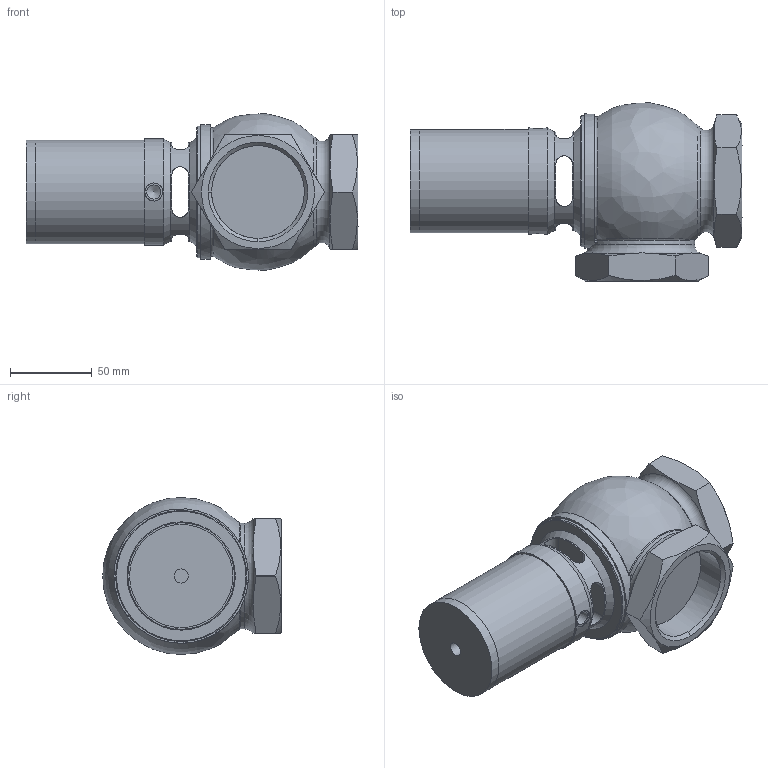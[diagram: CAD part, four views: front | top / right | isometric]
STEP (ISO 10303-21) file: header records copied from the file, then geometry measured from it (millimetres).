
FILE_DESCRIPTION(/* description */ (''),/* implementation_level */ '2;1');
FILE_NAME(/* name */ 'D:\OneDrive\Disegni Air Matic\Inventor\3D AerFlux base\AerFlux 2 L FV.stp',/* time_stamp */ '2020-06-08T15:01:44+02:00',/* author */ ('Alex'),/* organization */ (''),/* preprocessor_version */ 'ST-DEVELOPER v16.1',/* originating_system */ 'Autodesk Inventor 2016',/* authorisation */ '');
FILE_SCHEMA (('AUTOMOTIVE_DESIGN { 1 0 10303 214 3 1 1 }'));
Length unit declared in the file: millimetre
Products named in the file (5): TA 2 FV 90; 2CEFCORPSQBR09; Tubo AF 2 FV L; tp AF 2 L FV; AerFlux 2 L FV
Assembly tree (4 placements, depth 2):
  AerFlux 2 L FV
    TA 2 FV 90
    2CEFCORPSQBR09
    Tubo AF 2 FV L
    tp AF 2 L FV
Bounding box: 202.5 x 108.82 x 95.63 mm (x, y, z)
Volume: 748281.7 mm3; surface area: 103271.5 mm2
Topology: 4 solids, 4 shells, 87 faces, 216 edges, 137 vertices
Faces by surface type: plane 29, cylinder 29, cone 18, bspline 8, torus 3
Full cylindrical faces by diameter (mm): 8.566 x3, 11 x2, 56.6 x2, 60 x1, 63 x2, 65 x1, 71 x1, 73.4 x1, 80 x1, 82 x1
Entity records: 4107 total; most frequent: CARTESIAN_POINT 2265, DIRECTION 353, ORIENTED_EDGE 342, EDGE_CURVE 171, AXIS2_PLACEMENT_3D 157, EDGE_LOOP 126, VERTEX_POINT 123, FACE_OUTER_BOUND 87
